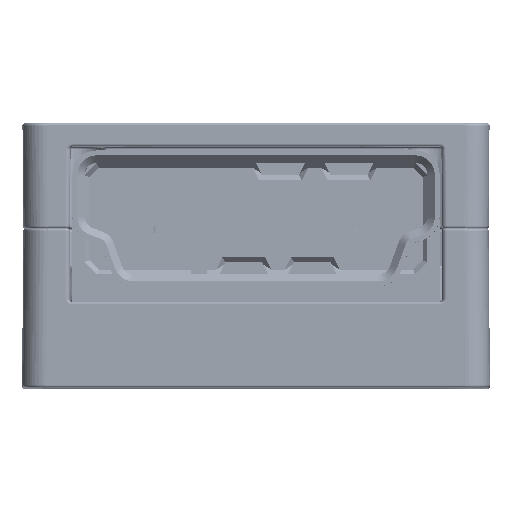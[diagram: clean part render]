
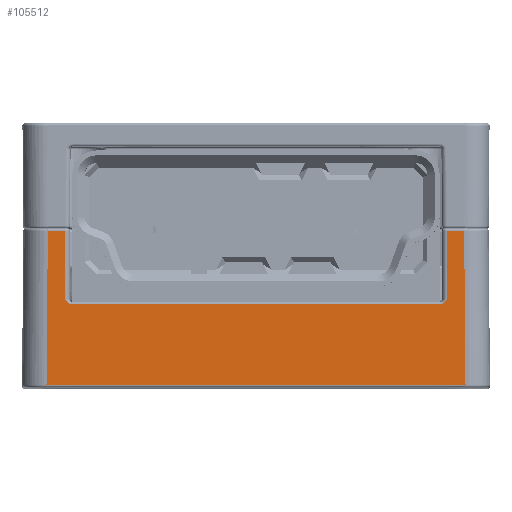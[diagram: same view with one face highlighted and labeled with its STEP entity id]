
A CAD part, top view. The second image highlights one B-rep face of the part: STEP entity #105512.
In plain terms, the highlighted planar face has unit normal (0, 0, 1).
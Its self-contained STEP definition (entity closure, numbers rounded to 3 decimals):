
#1279 = CARTESIAN_POINT ( 'NONE',  ( -8.557, -3.258, 0. ) ) ;
#3907 = DIRECTION ( 'NONE',  ( 0., -1., 0. ) ) ;
#6296 = VECTOR ( 'NONE', #26508, 1000. ) ;
#8912 = FACE_OUTER_BOUND ( 'NONE', #86580, .T. ) ;
#11059 = CARTESIAN_POINT ( 'NONE',  ( -7.765, 0.301, 0. ) ) ;
#14356 = VERTEX_POINT ( 'NONE', #81369 ) ;
#15240 = VERTEX_POINT ( 'NONE', #64695 ) ;
#15599 = VECTOR ( 'NONE', #66914, 1000. ) ;
#16422 = EDGE_CURVE ( 'NONE', #65324, #15240, #62198, .T. ) ;
#21217 = VERTEX_POINT ( 'NONE', #161275 ) ;
#22789 = LINE ( 'NONE', #175333, #49638 ) ;
#22999 = CARTESIAN_POINT ( 'NONE',  ( -9.5, -3.25, 0. ) ) ;
#25901 = LINE ( 'NONE', #73561, #66044 ) ;
#26508 = DIRECTION ( 'NONE',  ( 1., 0., 0. ) ) ;
#30184 = CARTESIAN_POINT ( 'NONE',  ( -9.5, 3.15, 0. ) ) ;
#34882 = VERTEX_POINT ( 'NONE', #148763 ) ;
#35982 = CARTESIAN_POINT ( 'NONE',  ( -7.8, 3.25, 0. ) ) ;
#39787 = CARTESIAN_POINT ( 'NONE',  ( -7.8, 0.35, 0. ) ) ;
#40413 = CARTESIAN_POINT ( 'NONE',  ( -7.578, 0.15, 0. ) ) ;
#42748 = ORIENTED_EDGE ( 'NONE', *, *, #49217, .T. ) ;
#49217 = EDGE_CURVE ( 'NONE', #21217, #65324, #69115, .T. ) ;
#49386 = CARTESIAN_POINT ( 'NONE',  ( 7.517, 0.15, 0. ) ) ;
#49638 = VECTOR ( 'NONE', #3907, 1000. ) ;
#49691 = VECTOR ( 'NONE', #50319, 1000. ) ;
#50319 = DIRECTION ( 'NONE',  ( 0., 1., 0. ) ) ;
#51740 = DIRECTION ( 'NONE',  ( 0., 0., 1. ) ) ;
#52648 = ORIENTED_EDGE ( 'NONE', *, *, #16422, .T. ) ;
#55608 = VERTEX_POINT ( 'NONE', #115720 ) ;
#56853 = ORIENTED_EDGE ( 'NONE', *, *, #62386, .T. ) ;
#60408 = DIRECTION ( 'NONE',  ( -1., 0., 0. ) ) ;
#60751 = DIRECTION ( 'NONE',  ( -1., 0., 0. ) ) ;
#61357 = EDGE_CURVE ( 'NONE', #82111, #119172, #129296, .T. ) ;
#62198 = LINE ( 'NONE', #139148, #6296 ) ;
#62386 = EDGE_CURVE ( 'NONE', #14356, #82111, #25901, .T. ) ;
#64695 = CARTESIAN_POINT ( 'NONE',  ( 8.556, -3.15, 0. ) ) ;
#65324 = VERTEX_POINT ( 'NONE', #125169 ) ;
#66044 = VECTOR ( 'NONE', #60408, 1000. ) ;
#66914 = DIRECTION ( 'NONE',  ( -0.009, 1., 0. ) ) ;
#67518 = EDGE_CURVE ( 'NONE', #119172, #55608, #112365, .T. ) ;
#69115 = LINE ( 'NONE', #1279, #73535 ) ;
#69249 = LINE ( 'NONE', #154569, #15599 ) ;
#73535 = VECTOR ( 'NONE', #143265, 1000. ) ;
#73561 = CARTESIAN_POINT ( 'NONE',  ( -9.5, 0.15, 0. ) ) ;
#74583 = CARTESIAN_POINT ( 'NONE',  ( 8.501, 3.15, 0. ) ) ;
#74713 = EDGE_CURVE ( 'NONE', #169231, #154837, #155079, .T. ) ;
#77090 = CARTESIAN_POINT ( 'NONE',  ( -7.8, 0.35, 0. ) ) ;
#81369 = CARTESIAN_POINT ( 'NONE',  ( 7.517, 0.15, 0. ) ) ;
#82111 = VERTEX_POINT ( 'NONE', #142796 ) ;
#84208 = EDGE_CURVE ( 'NONE', #55608, #21217, #101667, .T. ) ;
#86580 = EDGE_LOOP ( 'NONE', ( #175373, #121043, #42748, #52648, #164312, #159318, #131436, #159838, #56853, #181945 ) ) ;
#87786 = VECTOR ( 'NONE', #112311, 1000. ) ;
#91773 = B_SPLINE_CURVE_WITH_KNOTS ( 'NONE', 3,
 ( #133929, #107529, #108784, #137029, #165196, #49386 ),
 .UNSPECIFIED., .F., .F.,
 ( 4, 2, 4 ),
 ( 0., 0., 0. ),
 .UNSPECIFIED. ) ;
#92693 = VECTOR ( 'NONE', #60751, 1000. ) ;
#96043 = CARTESIAN_POINT ( 'NONE',  ( -9.5, 3.15, 0. ) ) ;
#101667 = LINE ( 'NONE', #30184, #92693 ) ;
#105512 = ADVANCED_FACE ( 'NONE', ( #8912 ), #150014, .T. ) ;
#107529 = CARTESIAN_POINT ( 'NONE',  ( 7.765, 0.301, 0. ) ) ;
#108784 = CARTESIAN_POINT ( 'NONE',  ( 7.73, 0.251, 0. ) ) ;
#111684 = CARTESIAN_POINT ( 'NONE',  ( -7.517, 0.15, 0. ) ) ;
#112311 = DIRECTION ( 'NONE',  ( -1., 0., 0. ) ) ;
#112365 = LINE ( 'NONE', #35982, #49691 ) ;
#115720 = CARTESIAN_POINT ( 'NONE',  ( -7.8, 3.15, 0. ) ) ;
#119172 = VERTEX_POINT ( 'NONE', #77090 ) ;
#121043 = ORIENTED_EDGE ( 'NONE', *, *, #84208, .T. ) ;
#125169 = CARTESIAN_POINT ( 'NONE',  ( -8.556, -3.15, 0. ) ) ;
#129296 = B_SPLINE_CURVE_WITH_KNOTS ( 'NONE', 3,
 ( #111684, #40413, #153681, #182518, #11059, #39787 ),
 .UNSPECIFIED., .F., .F.,
 ( 4, 2, 4 ),
 ( 0., 0., 0. ),
 .UNSPECIFIED. ) ;
#129981 = EDGE_CURVE ( 'NONE', #154837, #34882, #22789, .T. ) ;
#131436 = ORIENTED_EDGE ( 'NONE', *, *, #129981, .T. ) ;
#132557 = EDGE_CURVE ( 'NONE', #15240, #169231, #69249, .T. ) ;
#133929 = CARTESIAN_POINT ( 'NONE',  ( 7.8, 0.35, 0. ) ) ;
#137029 = CARTESIAN_POINT ( 'NONE',  ( 7.636, 0.175, 0. ) ) ;
#138096 = EDGE_CURVE ( 'NONE', #34882, #14356, #91773, .T. ) ;
#139148 = CARTESIAN_POINT ( 'NONE',  ( 8.557, -3.15, 0. ) ) ;
#141643 = CARTESIAN_POINT ( 'NONE',  ( 7.8, 3.15, 0. ) ) ;
#142796 = CARTESIAN_POINT ( 'NONE',  ( -7.517, 0.15, 0. ) ) ;
#143265 = DIRECTION ( 'NONE',  ( -0.009, -1., 0. ) ) ;
#148763 = CARTESIAN_POINT ( 'NONE',  ( 7.8, 0.35, 0. ) ) ;
#150014 = PLANE ( 'NONE',  #180744 ) ;
#151912 = DIRECTION ( 'NONE',  ( 1., 0., 0. ) ) ;
#153681 = CARTESIAN_POINT ( 'NONE',  ( -7.636, 0.175, 0. ) ) ;
#154569 = CARTESIAN_POINT ( 'NONE',  ( 8.555, -3.092, 0. ) ) ;
#154837 = VERTEX_POINT ( 'NONE', #141643 ) ;
#155079 = LINE ( 'NONE', #96043, #87786 ) ;
#159318 = ORIENTED_EDGE ( 'NONE', *, *, #74713, .T. ) ;
#159838 = ORIENTED_EDGE ( 'NONE', *, *, #138096, .T. ) ;
#161275 = CARTESIAN_POINT ( 'NONE',  ( -8.501, 3.15, 0. ) ) ;
#164312 = ORIENTED_EDGE ( 'NONE', *, *, #132557, .T. ) ;
#165196 = CARTESIAN_POINT ( 'NONE',  ( 7.578, 0.15, 0. ) ) ;
#169231 = VERTEX_POINT ( 'NONE', #74583 ) ;
#175333 = CARTESIAN_POINT ( 'NONE',  ( 7.8, 0.25, 0. ) ) ;
#175373 = ORIENTED_EDGE ( 'NONE', *, *, #67518, .T. ) ;
#180744 = AXIS2_PLACEMENT_3D ( 'NONE', #22999, #51740, #151912 ) ;
#181945 = ORIENTED_EDGE ( 'NONE', *, *, #61357, .T. ) ;
#182518 = CARTESIAN_POINT ( 'NONE',  ( -7.73, 0.251, 0. ) ) ;
